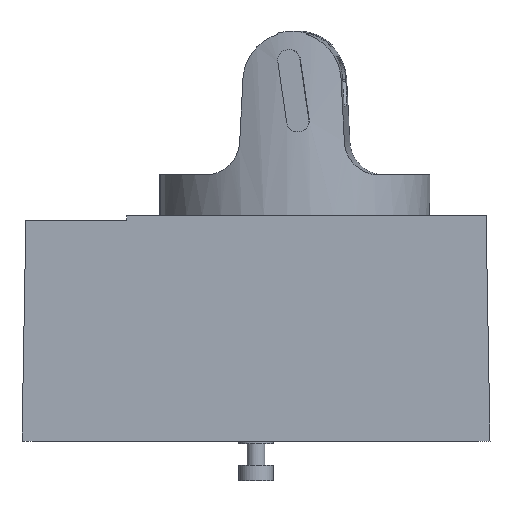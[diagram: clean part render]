
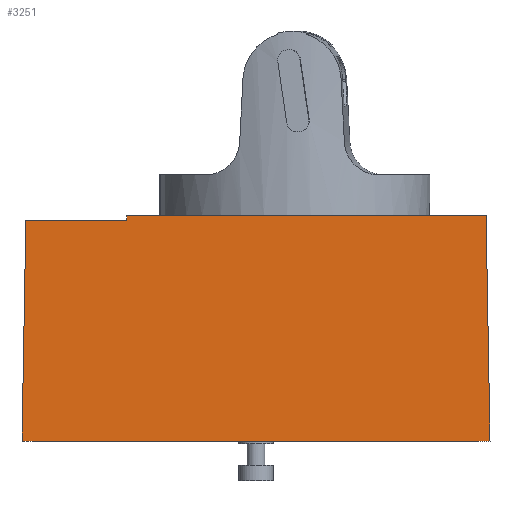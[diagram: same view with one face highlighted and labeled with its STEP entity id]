
A CAD part, front view. The second image highlights one B-rep face of the part: STEP entity #3251.
In plain terms, the highlighted planar face has unit normal (0, -1, 0.018) as drawn and (-1, 0.017, 0) by its records, which use the part's own axes.
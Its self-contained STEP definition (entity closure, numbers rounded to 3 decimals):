
#126=DIRECTION('',(0.,0.,1.));
#127=VECTOR('',#126,81.);
#128=CARTESIAN_POINT('',(1.501,0.,7.999));
#129=LINE('',#128,#127);
#393=DIRECTION('',(0.017,1.,0.017));
#394=VECTOR('',#393,38.212);
#395=CARTESIAN_POINT('',(1.501,0.,7.999));
#396=LINE('',#395,#394);
#477=DIRECTION('',(0.,0.,1.));
#478=VECTOR('',#477,62.149);
#479=CARTESIAN_POINT('',(2.181,39.,26.169));
#480=LINE('',#479,#478);
#614=DIRECTION('',(-0.017,-1.,0.017));
#615=VECTOR('',#614,39.012);
#616=CARTESIAN_POINT('',(2.181,39.,88.319));
#617=LINE('',#616,#615);
#628=DIRECTION('',(0.,0.,-1.));
#629=VECTOR('',#628,17.503);
#630=CARTESIAN_POINT('',(2.167,38.2,26.169));
#631=LINE('',#630,#629);
#635=DIRECTION('',(-0.017,-1.,0.));
#636=VECTOR('',#635,0.8);
#637=CARTESIAN_POINT('',(2.181,39.,26.169));
#638=LINE('',#637,#636);
#2513=CARTESIAN_POINT('',(1.501,0.,7.999));
#2514=CARTESIAN_POINT('',(1.501,0.,88.999));
#2515=VERTEX_POINT('',#2513);
#2516=VERTEX_POINT('',#2514);
#2521=CARTESIAN_POINT('',(2.181,39.,88.319));
#2522=VERTEX_POINT('',#2521);
#2526=CARTESIAN_POINT('',(2.181,39.,26.169));
#2528=VERTEX_POINT('',#2526);
#2530=CARTESIAN_POINT('',(2.167,38.2,8.666));
#2532=VERTEX_POINT('',#2530);
#2533=CARTESIAN_POINT('',(2.167,38.2,26.169));
#2534=VERTEX_POINT('',#2533);
#3238=CARTESIAN_POINT('',(1.501,0.,0.));
#3239=DIRECTION('',(1.,-0.017,0.));
#3240=DIRECTION('',(0.017,1.,0.));
#3241=AXIS2_PLACEMENT_3D('',#3238,#3239,#3240);
#3242=PLANE('',#3241);
#3243=ORIENTED_EDGE('',*,*,#3136,.F.);
#3244=ORIENTED_EDGE('',*,*,#3148,.F.);
#3245=ORIENTED_EDGE('',*,*,#3164,.T.);
#3246=ORIENTED_EDGE('',*,*,#3230,.T.);
#3247=ORIENTED_EDGE('',*,*,#2974,.F.);
#3248=ORIENTED_EDGE('',*,*,#3084,.T.);
#3249=EDGE_LOOP('',(#3243,#3244,#3245,#3246,#3247,#3248));
#3250=FACE_OUTER_BOUND('',#3249,.F.);
#2974=EDGE_CURVE('',#2515,#2516,#129,.T.);
#3084=EDGE_CURVE('',#2515,#2532,#396,.T.);
#3136=EDGE_CURVE('',#2534,#2532,#631,.T.);
#3148=EDGE_CURVE('',#2528,#2534,#638,.T.);
#3164=EDGE_CURVE('',#2528,#2522,#480,.T.);
#3230=EDGE_CURVE('',#2522,#2516,#617,.T.);
#3251=ADVANCED_FACE('',(#3250),#3242,.F.);
